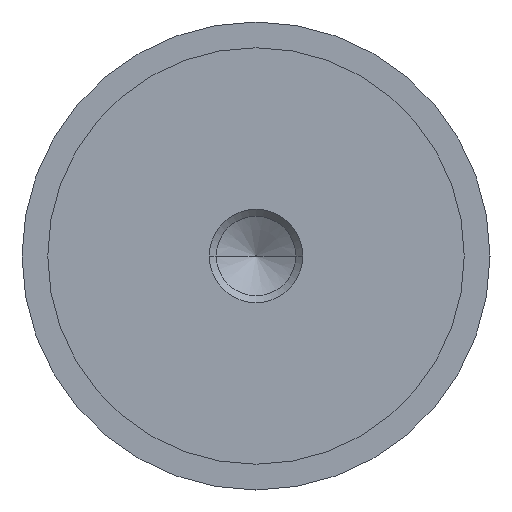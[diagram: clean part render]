
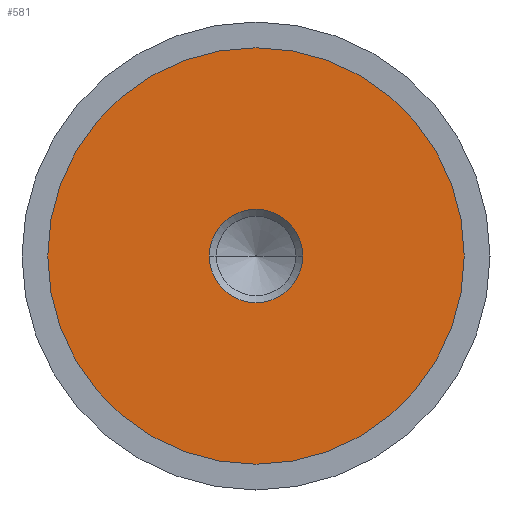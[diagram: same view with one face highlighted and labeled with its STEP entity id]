
A CAD part, left-side view. The second image highlights one B-rep face of the part: STEP entity #581.
In plain terms, the highlighted planar face has unit normal (-1, 0, 0).
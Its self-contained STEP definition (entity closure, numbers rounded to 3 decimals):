
#8 = DIRECTION ( 'NONE',  ( 0., 0., -1. ) ) ;
#9 = CARTESIAN_POINT ( 'NONE',  ( -9.99, -3.99, 0. ) ) ;
#17 = DIRECTION ( 'NONE',  ( 0., 0., 1. ) ) ;
#24 = CIRCLE ( 'NONE', #728, 3.99 ) ;
#89 = AXIS2_PLACEMENT_3D ( 'NONE', #489, #275, #272 ) ;
#124 = AXIS2_PLACEMENT_3D ( 'NONE', #694, #183, #17 ) ;
#168 = CIRCLE ( 'NONE', #89, 17.8 ) ;
#182 = FACE_OUTER_BOUND ( 'NONE', #305, .T. ) ;
#183 = DIRECTION ( 'NONE',  ( -1., 0., 0. ) ) ;
#195 = VERTEX_POINT ( 'NONE', #478 ) ;
#205 = CIRCLE ( 'NONE', #550, 3.99 ) ;
#210 = CARTESIAN_POINT ( 'NONE',  ( -9.99, 0., 0. ) ) ;
#256 = EDGE_CURVE ( 'NONE', #195, #584, #205, .T. ) ;
#268 = AXIS2_PLACEMENT_3D ( 'NONE', #639, #289, #511 ) ;
#272 = DIRECTION ( 'NONE',  ( 0., 0., 1. ) ) ;
#275 = DIRECTION ( 'NONE',  ( -1., 0., 0. ) ) ;
#289 = DIRECTION ( 'NONE',  ( 1., 0., 0. ) ) ;
#303 = VERTEX_POINT ( 'NONE', #322 ) ;
#305 = EDGE_LOOP ( 'NONE', ( #591, #402 ) ) ;
#322 = CARTESIAN_POINT ( 'NONE',  ( -9.99, 0., -17.8 ) ) ;
#323 = EDGE_LOOP ( 'NONE', ( #476, #523 ) ) ;
#329 = EDGE_CURVE ( 'NONE', #416, #303, #168, .T. ) ;
#372 = DIRECTION ( 'NONE',  ( 1., 0., 0. ) ) ;
#401 = PLANE ( 'NONE',  #268 ) ;
#402 = ORIENTED_EDGE ( 'NONE', *, *, #448, .T. ) ;
#416 = VERTEX_POINT ( 'NONE', #444 ) ;
#439 = CIRCLE ( 'NONE', #124, 17.8 ) ;
#444 = CARTESIAN_POINT ( 'NONE',  ( -9.99, 0., 17.8 ) ) ;
#448 = EDGE_CURVE ( 'NONE', #303, #416, #439, .T. ) ;
#476 = ORIENTED_EDGE ( 'NONE', *, *, #736, .T. ) ;
#478 = CARTESIAN_POINT ( 'NONE',  ( -9.99, 3.99, 0. ) ) ;
#489 = CARTESIAN_POINT ( 'NONE',  ( -9.99, 0., 0. ) ) ;
#507 = FACE_BOUND ( 'NONE', #323, .T. ) ;
#511 = DIRECTION ( 'NONE',  ( 0., 0., -1. ) ) ;
#523 = ORIENTED_EDGE ( 'NONE', *, *, #256, .T. ) ;
#550 = AXIS2_PLACEMENT_3D ( 'NONE', #210, #372, #604 ) ;
#581 = ADVANCED_FACE ( 'NONE', ( #507, #182 ), #401, .F. ) ;
#584 = VERTEX_POINT ( 'NONE', #9 ) ;
#591 = ORIENTED_EDGE ( 'NONE', *, *, #329, .T. ) ;
#604 = DIRECTION ( 'NONE',  ( 0., 0., -1. ) ) ;
#633 = CARTESIAN_POINT ( 'NONE',  ( -9.99, 0., 0. ) ) ;
#639 = CARTESIAN_POINT ( 'NONE',  ( -9.99, 17.8, 0. ) ) ;
#694 = CARTESIAN_POINT ( 'NONE',  ( -9.99, 0., 0. ) ) ;
#728 = AXIS2_PLACEMENT_3D ( 'NONE', #633, #743, #8 ) ;
#736 = EDGE_CURVE ( 'NONE', #584, #195, #24, .T. ) ;
#743 = DIRECTION ( 'NONE',  ( 1., 0., 0. ) ) ;
